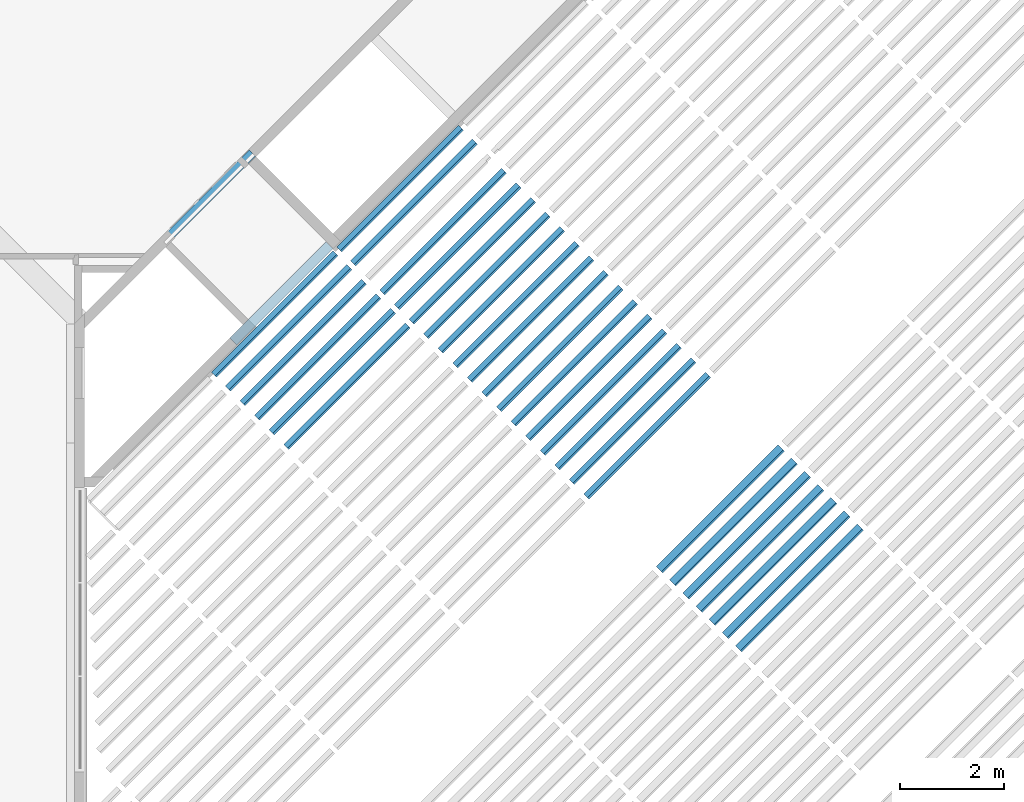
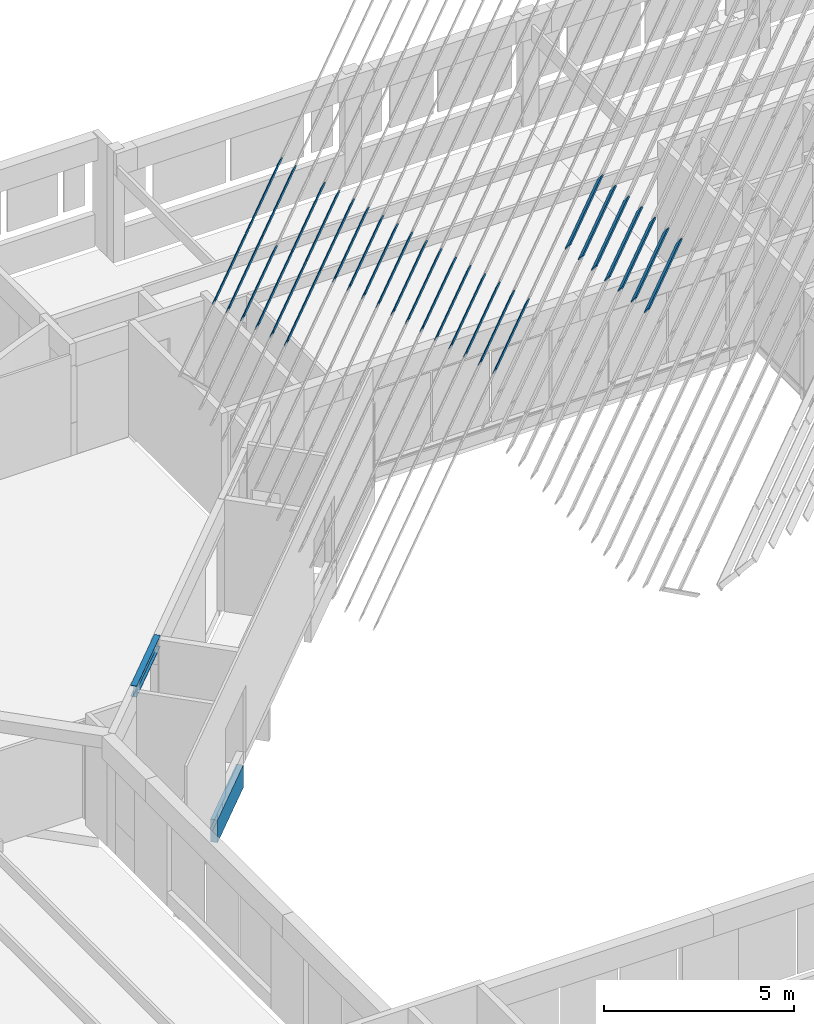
# One storey, part 7 of 37: 32 beams, 1 element without a shape of its own.
"""IFC4X3_ADD2 building model written with IfcOpenShell, lengths in millimetres."""

from ifc_helpers import new_model, si_unit, direction, frame, frame_2d, origin_with_axes, origin_2d_with_axis, place, context, subcontext, project, spatial, polyline, rectangle, outline, extrude, source, transform, mapped, material, type_object, type_shapes, element, aggregate, save


model = new_model("IFC4X3_ADD2")

# Units and contexts
model_context = context("Model", 3, precision=1e-05, world=origin_with_axes(), true_north=direction((0.0, 1.0)))
body_context = subcontext(model_context, "Body", "Model", "MODEL_VIEW")
ifc_project = project(units=[si_unit("LENGTHUNIT", "METRE", prefix="MILLI"), si_unit("AREAUNIT", "SQUARE_METRE"), si_unit("VOLUMEUNIT", "CUBIC_METRE"), si_unit("PLANEANGLEUNIT", "RADIAN"), si_unit("TIMEUNIT", "SECOND"), si_unit("MASSUNIT", "GRAM")], contexts=[model_context])

# Site, building, storey
site_placement = place(None, origin_with_axes())
site = spatial("IfcSite", under=ifc_project, at=site_placement, Name="Site", CompositionType="ELEMENT")
building_placement = place(site_placement, origin_with_axes())
building = spatial("IfcBuilding", under=site, at=building_placement, Name="IFC Building Story")
storey_placement = place(building_placement, frame((0.0, 0.0, 3600.0), z_axis=(0.0, 0.0, 1.0), x_axis=(1.0, 0.0, 0.0)))
storey = spatial("IfcBuildingStorey", under=building, at=storey_placement, Name="010", Elevation=3600.0)

# Assembly, beam
assembly_placement = place(storey_placement, frame((0.0, 0.0, -3600.0), z_axis=(0.0, 0.0, 1.0), x_axis=(1.0, 0.0, 0.0)))
assembly = element("IfcElementAssembly", 1, at=assembly_placement, inside=storey, Name="Structural Connections Assembly:IPE360 + plaat", ObjectType="Structural Connections Assembly:IPE360 + plaat", AssemblyPlace="NOTDEFINED", PredefinedType="USERDEFINED")
ifc_material_1 = material(Name="Metal - Steel - 345 MPa")
beam_type_1 = type_object("IfcBeamType", Name="IPE-Beams_IPE360", PredefinedType="NOTDEFINED")
shared_shape_1 = source(origin_with_axes(), body_context, "Body", "SweptSolid", [
    extrude(outline(polyline([(179.9999999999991, 85.0), (179.9999999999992, -84.9999999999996), (167.3000000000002, -84.9999999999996), (167.3000000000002, -4.0), (-167.2999999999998, -4.0), (-167.2999999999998, -85.0), (-179.9999999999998, -85.0), (-179.9999999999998, 85.0), (-167.2999999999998, 85.0), (-167.2999999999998, 3.999999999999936), (167.3000000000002, 3.999999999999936), (167.3000000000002, 85.0), (179.9999999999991, 85.0)])), frame((-925.267324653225, 0.0, 0.0), z_axis=(1.0, 0.0, 0.0), x_axis=(0.0, 0.0, 1.0)), (0.0, 0.0, 1.0), 2419.99999999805),
])
type_shapes(beam_type_1, [shared_shape_1])
beam_1_placement = place(assembly_placement, frame((-36018.9610306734, 30135.4545570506, 6830.0), z_axis=(0.0, 0.0, 1.0), x_axis=(-0.7071067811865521, -0.707106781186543, 0.0)))
beam_1 = element("IfcBeam", 2, at=beam_1_placement, type_object=beam_type_1, material=ifc_material_1, Name="IPE-Beams:IPE360", ObjectType="IPE360", PredefinedType="BEAM", context=body_context, shape_type="MappedRepresentation", body=[
    mapped(shared_shape_1, transform((0.0, 0.0, 0.0))),
])
aggregate(assembly, [beam_1])

# Beams
ifc_material_2 = material(Name="GVH_i2_naaldhout_generiek")
beam_type_2 = type_object("IfcBeamType", Name="28_SF_hout_rechthoekig_40 x 230_89", PredefinedType="NOTDEFINED")
shared_shape_2 = source(origin_with_axes(), body_context, "Body", "SweptSolid", [
    extrude(rectangle(XDim=3317.26999997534, YDim=40.0000000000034, at=origin_2d_with_axis()), frame((0.8922875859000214, 0.0, -115.0), z_axis=(0.0, 0.0, 1.0), x_axis=(1.0, 0.0, 0.0)), (0.0, 0.0, 1.0), 230.0000000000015),
])
type_shapes(beam_type_2, [shared_shape_2])
beam_2_placement = place(storey_placement, frame((-33542.8838122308, 26295.00391064, 15994.197142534), z_axis=(0.311937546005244, -0.311937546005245, 0.8974351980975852), x_axis=(-0.7071067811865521, -0.707106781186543, 0.0)))
element("IfcBeam", 3, at=beam_2_placement, inside=storey, type_object=beam_type_2, material=ifc_material_2, Name="28_SF_hout_rechthoekig:40 x 230", ObjectType="40 x 230", PredefinedType="BEAM", context=body_context, shape_type="MappedRepresentation", body=[
    mapped(shared_shape_2, transform((0.0, 0.0, 0.0))),
])
beam_type_3 = type_object("IfcBeamType", Name="28_SF_hout_rechthoekig_40 x 230_91", PredefinedType="NOTDEFINED")
shared_shape_3 = source(origin_with_axes(), body_context, "Body", "SweptSolid", [
    extrude(rectangle(XDim=3317.26999997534, YDim=40.0000000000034, at=origin_2d_with_axis()), frame((0.892201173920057, 0.0, -115.0), z_axis=(0.0, 0.0, 1.0), x_axis=(1.0, 0.0, 0.0)), (0.0, 0.0, 1.0), 230.0000000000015),
])
type_shapes(beam_type_3, [shared_shape_3])
beam_3_placement = place(storey_placement, frame((-33823.876949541, 26575.9970479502, 16189.5367277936), z_axis=(0.311937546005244, -0.311937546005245, 0.8974351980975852), x_axis=(-0.7071067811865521, -0.707106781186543, 0.0)))
element("IfcBeam", 4, at=beam_3_placement, inside=storey, type_object=beam_type_3, material=ifc_material_2, Name="28_SF_hout_rechthoekig:40 x 230", ObjectType="40 x 230", PredefinedType="BEAM", context=body_context, shape_type="MappedRepresentation", body=[
    mapped(shared_shape_3, transform((0.0, 0.0, 0.0))),
])
beam_type_4 = type_object("IfcBeamType", Name="28_SF_hout_rechthoekig_40 x 230_93", PredefinedType="NOTDEFINED")
shared_shape_4 = source(origin_with_axes(), body_context, "Body", "SweptSolid", [
    extrude(rectangle(XDim=3317.26999997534, YDim=40.0000000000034, at=origin_2d_with_axis()), frame((0.8921147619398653, 0.0, -115.0), z_axis=(0.0, 0.0, 1.0), x_axis=(1.0, 0.0, 0.0)), (0.0, 0.0, 1.0), 230.0000000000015),
])
type_shapes(beam_type_4, [shared_shape_4])
beam_4_placement = place(storey_placement, frame((-34104.8700868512, 26856.9901852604, 16384.8763130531), z_axis=(0.311937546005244, -0.311937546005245, 0.8974351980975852), x_axis=(-0.7071067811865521, -0.707106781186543, 0.0)))
element("IfcBeam", 5, at=beam_4_placement, inside=storey, type_object=beam_type_4, material=ifc_material_2, Name="28_SF_hout_rechthoekig:40 x 230", ObjectType="40 x 230", PredefinedType="BEAM", context=body_context, shape_type="MappedRepresentation", body=[
    mapped(shared_shape_4, transform((0.0, 0.0, 0.0))),
])
beam_type_5 = type_object("IfcBeamType", Name="28_SF_hout_rechthoekig_40 x 230_95", PredefinedType="NOTDEFINED")
shared_shape_5 = source(origin_with_axes(), body_context, "Body", "SweptSolid", [
    extrude(rectangle(XDim=3317.26999997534, YDim=40.0000000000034, at=origin_2d_with_axis()), frame((0.8920283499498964, 0.0, -115.0), z_axis=(0.0, 0.0, 1.0), x_axis=(1.0, 0.0, 0.0)), (0.0, 0.0, 1.0), 230.0000000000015),
])
type_shapes(beam_type_5, [shared_shape_5])
beam_5_placement = place(storey_placement, frame((-34385.8632241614, 27137.9833225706, 16580.2158983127), z_axis=(0.311937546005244, -0.311937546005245, 0.8974351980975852), x_axis=(-0.7071067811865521, -0.707106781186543, 0.0)))
element("IfcBeam", 6, at=beam_5_placement, inside=storey, type_object=beam_type_5, material=ifc_material_2, Name="28_SF_hout_rechthoekig:40 x 230", ObjectType="40 x 230", PredefinedType="BEAM", context=body_context, shape_type="MappedRepresentation", body=[
    mapped(shared_shape_5, transform((0.0, 0.0, 0.0))),
])
beam_type_6 = type_object("IfcBeamType", Name="28_SF_hout_rechthoekig_40 x 230_97", PredefinedType="NOTDEFINED")
shared_shape_6 = source(origin_with_axes(), body_context, "Body", "SweptSolid", [
    extrude(rectangle(XDim=3317.77038686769, YDim=40.0000000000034, at=origin_2d_with_axis()), frame((0.892411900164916, 0.0, -115.0), z_axis=(0.0, 0.0, 1.0), x_axis=(1.0, 0.0, 0.0)), (0.0, 0.0, 1.0), 230.0),
])
type_shapes(beam_type_6, [shared_shape_6])
beam_6_placement = place(storey_placement, frame((-34666.8563614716, 27418.9764598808, 16775.5554835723), z_axis=(0.311937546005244, -0.311937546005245, 0.8974351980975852), x_axis=(-0.7071067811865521, -0.707106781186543, 0.0)))
element("IfcBeam", 7, at=beam_6_placement, inside=storey, type_object=beam_type_6, material=ifc_material_2, Name="28_SF_hout_rechthoekig:40 x 230", ObjectType="40 x 230", PredefinedType="BEAM", context=body_context, shape_type="MappedRepresentation", body=[
    mapped(shared_shape_6, transform((0.0, 0.0, 0.0))),
])
beam_type_7 = type_object("IfcBeamType", Name="28_SF_hout_rechthoekig_40 x 230_99", PredefinedType="NOTDEFINED")
shared_shape_7 = source(origin_with_axes(), body_context, "Body", "SweptSolid", [
    extrude(rectangle(XDim=3317.28000000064, YDim=40.0000000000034, at=origin_2d_with_axis()), frame((0.8983245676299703, 0.0, -115.0), z_axis=(0.0, 0.0, 1.0), x_axis=(1.0, 0.0, 0.0)), (0.0, 0.0, 1.0), 230.0),
])
type_shapes(beam_type_7, [shared_shape_7])
beam_7_placement = place(storey_placement, frame((-27754.584303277, 25339.4681241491, 13650.1221194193), z_axis=(0.311937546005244, -0.311937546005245, 0.8974351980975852), x_axis=(-0.7071067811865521, -0.707106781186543, 0.0)))
element("IfcBeam", 8, at=beam_7_placement, inside=storey, type_object=beam_type_7, material=ifc_material_2, Name="28_SF_hout_rechthoekig:40 x 230", ObjectType="40 x 230", PredefinedType="BEAM", context=body_context, shape_type="MappedRepresentation", body=[
    mapped(shared_shape_7, transform((0.0, 0.0, 0.0))),
])
beam_type_8 = type_object("IfcBeamType", Name="28_SF_hout_rechthoekig_40 x 230_101", PredefinedType="NOTDEFINED")
shared_shape_8 = source(origin_with_axes(), body_context, "Body", "SweptSolid", [
    extrude(rectangle(XDim=3317.28000000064, YDim=40.0000000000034, at=origin_2d_with_axis()), frame((0.8982381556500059, 0.0, -115.0), z_axis=(0.0, 0.0, 1.0), x_axis=(1.0, 0.0, 0.0)), (0.0, 0.0, 1.0), 230.0),
])
type_shapes(beam_type_8, [shared_shape_8])
beam_8_placement = place(storey_placement, frame((-28035.5774405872, 25620.4612614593, 13845.4617046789), z_axis=(0.311937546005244, -0.311937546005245, 0.8974351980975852), x_axis=(-0.7071067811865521, -0.707106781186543, 0.0)))
element("IfcBeam", 9, at=beam_8_placement, inside=storey, type_object=beam_type_8, material=ifc_material_2, Name="28_SF_hout_rechthoekig:40 x 230", ObjectType="40 x 230", PredefinedType="BEAM", context=body_context, shape_type="MappedRepresentation", body=[
    mapped(shared_shape_8, transform((0.0, 0.0, 0.0))),
])
beam_type_9 = type_object("IfcBeamType", Name="28_SF_hout_rechthoekig_40 x 230_103", PredefinedType="NOTDEFINED")
shared_shape_9 = source(origin_with_axes(), body_context, "Body", "SweptSolid", [
    extrude(rectangle(XDim=3317.28000000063, YDim=40.0000000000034, at=origin_2d_with_axis()), frame((0.8981517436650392, 0.0, -115.0), z_axis=(0.0, 0.0, 1.0), x_axis=(1.0, 0.0, 0.0)), (0.0, 0.0, 1.0), 230.0),
])
type_shapes(beam_type_9, [shared_shape_9])
beam_9_placement = place(storey_placement, frame((-28316.5705778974, 25901.4543987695, 14040.8012899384), z_axis=(0.311937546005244, -0.311937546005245, 0.8974351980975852), x_axis=(-0.7071067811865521, -0.707106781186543, 0.0)))
element("IfcBeam", 10, at=beam_9_placement, inside=storey, type_object=beam_type_9, material=ifc_material_2, Name="28_SF_hout_rechthoekig:40 x 230", ObjectType="40 x 230", PredefinedType="BEAM", context=body_context, shape_type="MappedRepresentation", body=[
    mapped(shared_shape_9, transform((0.0, 0.0, 0.0))),
])
beam_type_10 = type_object("IfcBeamType", Name="28_SF_hout_rechthoekig_40 x 230_105", PredefinedType="NOTDEFINED")
shared_shape_10 = source(origin_with_axes(), body_context, "Body", "SweptSolid", [
    extrude(rectangle(XDim=3317.28000000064, YDim=40.0000000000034, at=origin_2d_with_axis()), frame((0.8980653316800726, 0.0, -115.0), z_axis=(0.0, 0.0, 1.0), x_axis=(1.0, 0.0, 0.0)), (0.0, 0.0, 1.0), 230.0),
])
type_shapes(beam_type_10, [shared_shape_10])
beam_10_placement = place(storey_placement, frame((-28597.5637152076, 26182.4475360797, 14236.140875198), z_axis=(0.311937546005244, -0.311937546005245, 0.8974351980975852), x_axis=(-0.7071067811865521, -0.707106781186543, 0.0)))
element("IfcBeam", 11, at=beam_10_placement, inside=storey, type_object=beam_type_10, material=ifc_material_2, Name="28_SF_hout_rechthoekig:40 x 230", ObjectType="40 x 230", PredefinedType="BEAM", context=body_context, shape_type="MappedRepresentation", body=[
    mapped(shared_shape_10, transform((0.0, 0.0, 0.0))),
])
beam_type_11 = type_object("IfcBeamType", Name="28_SF_hout_rechthoekig_40 x 230_107", PredefinedType="NOTDEFINED")
shared_shape_11 = source(origin_with_axes(), body_context, "Body", "SweptSolid", [
    extrude(rectangle(XDim=3317.28000000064, YDim=40.0000000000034, at=origin_2d_with_axis()), frame((0.8979789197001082, 0.0, -115.0), z_axis=(0.0, 0.0, 1.0), x_axis=(1.0, 0.0, 0.0)), (0.0, 0.0, 1.0), 230.0),
])
type_shapes(beam_type_11, [shared_shape_11])
beam_11_placement = place(storey_placement, frame((-28878.5568525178, 26463.4406733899, 14431.4804604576), z_axis=(0.311937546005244, -0.311937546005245, 0.8974351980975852), x_axis=(-0.7071067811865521, -0.707106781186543, 0.0)))
element("IfcBeam", 12, at=beam_11_placement, inside=storey, type_object=beam_type_11, material=ifc_material_2, Name="28_SF_hout_rechthoekig:40 x 230", ObjectType="40 x 230", PredefinedType="BEAM", context=body_context, shape_type="MappedRepresentation", body=[
    mapped(shared_shape_11, transform((0.0, 0.0, 0.0))),
])
beam_type_12 = type_object("IfcBeamType", Name="28_SF_hout_rechthoekig_40 x 230_109", PredefinedType="NOTDEFINED")
shared_shape_12 = source(origin_with_axes(), body_context, "Body", "SweptSolid", [
    extrude(rectangle(XDim=3317.27991358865, YDim=40.0000000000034, at=origin_2d_with_axis()), frame((0.8978493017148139, 0.0, -115.0), z_axis=(0.0, 0.0, 1.0), x_axis=(1.0, 0.0, 0.0)), (0.0, 0.0, 1.0), 230.0),
])
type_shapes(beam_type_12, [shared_shape_12])
beam_12_placement = place(storey_placement, frame((-29159.549989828, 26744.4338107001, 14626.8200457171), z_axis=(0.311937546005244, -0.311937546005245, 0.8974351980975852), x_axis=(-0.7071067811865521, -0.707106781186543, 0.0)))
element("IfcBeam", 13, at=beam_12_placement, inside=storey, type_object=beam_type_12, material=ifc_material_2, Name="28_SF_hout_rechthoekig:40 x 230", ObjectType="40 x 230", PredefinedType="BEAM", context=body_context, shape_type="MappedRepresentation", body=[
    mapped(shared_shape_12, transform((0.0, 0.0, 0.0))),
])
beam_type_13 = type_object("IfcBeamType", Name="28_SF_hout_rechthoekig_40 x 230_111", PredefinedType="NOTDEFINED")
shared_shape_13 = source(origin_with_axes(), body_context, "Body", "SweptSolid", [
    extrude(rectangle(XDim=3317.28000000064, YDim=40.0000000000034, at=origin_2d_with_axis()), frame((0.8978060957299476, 0.0, -115.0), z_axis=(0.0, 0.0, 1.0), x_axis=(1.0, 0.0, 0.0)), (0.0, 0.0, 1.0), 230.0),
])
type_shapes(beam_type_13, [shared_shape_13])
beam_13_placement = place(storey_placement, frame((-29440.5431271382, 27025.4269480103, 14822.1596309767), z_axis=(0.311937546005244, -0.311937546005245, 0.8974351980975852), x_axis=(-0.7071067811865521, -0.707106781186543, 0.0)))
element("IfcBeam", 14, at=beam_13_placement, inside=storey, type_object=beam_type_13, material=ifc_material_2, Name="28_SF_hout_rechthoekig:40 x 230", ObjectType="40 x 230", PredefinedType="BEAM", context=body_context, shape_type="MappedRepresentation", body=[
    mapped(shared_shape_13, transform((0.0, 0.0, 0.0))),
])
beam_type_14 = type_object("IfcBeamType", Name="28_SF_hout_rechthoekig_40 x 230_113", PredefinedType="NOTDEFINED")
shared_shape_14 = source(origin_with_axes(), body_context, "Body", "SweptSolid", [
    extrude(rectangle(XDim=3317.28000000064, YDim=40.0000000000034, at=origin_2d_with_axis()), frame((0.8977196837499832, 0.0, -115.0), z_axis=(0.0, 0.0, 1.0), x_axis=(1.0, 0.0, 0.0)), (0.0, 0.0, 1.0), 230.0),
])
type_shapes(beam_type_14, [shared_shape_14])
beam_14_placement = place(storey_placement, frame((-29721.5362644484, 27306.4200853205, 15017.4992162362), z_axis=(0.311937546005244, -0.311937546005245, 0.8974351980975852), x_axis=(-0.7071067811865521, -0.707106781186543, 0.0)))
element("IfcBeam", 15, at=beam_14_placement, inside=storey, type_object=beam_type_14, material=ifc_material_2, Name="28_SF_hout_rechthoekig:40 x 230", ObjectType="40 x 230", PredefinedType="BEAM", context=body_context, shape_type="MappedRepresentation", body=[
    mapped(shared_shape_14, transform((0.0, 0.0, 0.0))),
])
beam_type_15 = type_object("IfcBeamType", Name="28_SF_hout_rechthoekig_40 x 230_115", PredefinedType="NOTDEFINED")
shared_shape_15 = source(origin_with_axes(), body_context, "Body", "SweptSolid", [
    extrude(rectangle(XDim=3317.28000000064, YDim=40.0000000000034, at=origin_2d_with_axis()), frame((0.8976332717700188, 0.0, -115.0), z_axis=(0.0, 0.0, 1.0), x_axis=(1.0, 0.0, 0.0)), (0.0, 0.0, 1.0), 230.0),
])
type_shapes(beam_type_15, [shared_shape_15])
beam_15_placement = place(storey_placement, frame((-30002.5294017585, 27587.4132226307, 15212.8388014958), z_axis=(0.311937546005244, -0.311937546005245, 0.8974351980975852), x_axis=(-0.7071067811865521, -0.707106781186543, 0.0)))
element("IfcBeam", 16, at=beam_15_placement, inside=storey, type_object=beam_type_15, material=ifc_material_2, Name="28_SF_hout_rechthoekig:40 x 230", ObjectType="40 x 230", PredefinedType="BEAM", context=body_context, shape_type="MappedRepresentation", body=[
    mapped(shared_shape_15, transform((0.0, 0.0, 0.0))),
])
beam_type_16 = type_object("IfcBeamType", Name="28_SF_hout_rechthoekig_40 x 230_117", PredefinedType="NOTDEFINED")
shared_shape_16 = source(origin_with_axes(), body_context, "Body", "SweptSolid", [
    extrude(rectangle(XDim=3317.28000000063, YDim=40.0000000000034, at=origin_2d_with_axis()), frame((0.8975468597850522, 0.0, -115.0), z_axis=(0.0, 0.0, 1.0), x_axis=(1.0, 0.0, 0.0)), (0.0, 0.0, 1.0), 230.0),
])
type_shapes(beam_type_16, [shared_shape_16])
beam_16_placement = place(storey_placement, frame((-30283.5225390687, 27868.4063599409, 15408.1783867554), z_axis=(0.311937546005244, -0.311937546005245, 0.8974351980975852), x_axis=(-0.7071067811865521, -0.707106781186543, 0.0)))
element("IfcBeam", 17, at=beam_16_placement, inside=storey, type_object=beam_type_16, material=ifc_material_2, Name="28_SF_hout_rechthoekig:40 x 230", ObjectType="40 x 230", PredefinedType="BEAM", context=body_context, shape_type="MappedRepresentation", body=[
    mapped(shared_shape_16, transform((0.0, 0.0, 0.0))),
])
beam_type_17 = type_object("IfcBeamType", Name="28_SF_hout_rechthoekig_40 x 230_119", PredefinedType="NOTDEFINED")
shared_shape_17 = source(origin_with_axes(), body_context, "Body", "SweptSolid", [
    extrude(rectangle(XDim=3317.28000000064, YDim=40.0000000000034, at=origin_2d_with_axis()), frame((0.89746044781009, 0.0, -115.0), z_axis=(0.0, 0.0, 1.0), x_axis=(1.0, 0.0, 0.0)), (0.0, 0.0, 1.0), 230.0),
])
type_shapes(beam_type_17, [shared_shape_17])
beam_17_placement = place(storey_placement, frame((-30564.5156763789, 28149.3994972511, 15603.5179720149), z_axis=(0.311937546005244, -0.311937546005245, 0.8974351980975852), x_axis=(-0.7071067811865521, -0.707106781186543, 0.0)))
element("IfcBeam", 18, at=beam_17_placement, inside=storey, type_object=beam_type_17, material=ifc_material_2, Name="28_SF_hout_rechthoekig:40 x 230", ObjectType="40 x 230", PredefinedType="BEAM", context=body_context, shape_type="MappedRepresentation", body=[
    mapped(shared_shape_17, transform((0.0, 0.0, 0.0))),
])
beam_type_18 = type_object("IfcBeamType", Name="28_SF_hout_rechthoekig_40 x 230_121", PredefinedType="NOTDEFINED")
shared_shape_18 = source(origin_with_axes(), body_context, "Body", "SweptSolid", [
    extrude(rectangle(XDim=3317.28000000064, YDim=40.0000000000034, at=origin_2d_with_axis()), frame((0.8973740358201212, 0.0, -115.0), z_axis=(0.0, 0.0, 1.0), x_axis=(1.0, 0.0, 0.0)), (0.0, 0.0, 1.0), 230.0),
])
type_shapes(beam_type_18, [shared_shape_18])
beam_18_placement = place(storey_placement, frame((-30845.5088136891, 28430.3926345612, 15798.8575572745), z_axis=(0.311937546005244, -0.311937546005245, 0.8974351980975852), x_axis=(-0.7071067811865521, -0.707106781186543, 0.0)))
element("IfcBeam", 19, at=beam_18_placement, inside=storey, type_object=beam_type_18, material=ifc_material_2, Name="28_SF_hout_rechthoekig:40 x 230", ObjectType="40 x 230", PredefinedType="BEAM", context=body_context, shape_type="MappedRepresentation", body=[
    mapped(shared_shape_18, transform((0.0, 0.0, 0.0))),
])
beam_type_19 = type_object("IfcBeamType", Name="28_SF_hout_rechthoekig_40 x 230_123", PredefinedType="NOTDEFINED")
shared_shape_19 = source(origin_with_axes(), body_context, "Body", "SweptSolid", [
    extrude(rectangle(XDim=3317.28000000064, YDim=40.0000000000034, at=origin_2d_with_axis()), frame((0.8972876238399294, 0.0, -115.0), z_axis=(0.0, 0.0, 1.0), x_axis=(1.0, 0.0, 0.0)), (0.0, 0.0, 1.0), 230.0),
])
type_shapes(beam_type_19, [shared_shape_19])
beam_19_placement = place(storey_placement, frame((-31126.5019509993, 28711.3857718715, 15994.197142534), z_axis=(0.311937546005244, -0.311937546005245, 0.8974351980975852), x_axis=(-0.7071067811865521, -0.707106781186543, 0.0)))
element("IfcBeam", 20, at=beam_19_placement, inside=storey, type_object=beam_type_19, material=ifc_material_2, Name="28_SF_hout_rechthoekig:40 x 230", ObjectType="40 x 230", PredefinedType="BEAM", context=body_context, shape_type="MappedRepresentation", body=[
    mapped(shared_shape_19, transform((0.0, 0.0, 0.0))),
])
beam_type_20 = type_object("IfcBeamType", Name="28_SF_hout_rechthoekig_40 x 230_125", PredefinedType="NOTDEFINED")
shared_shape_20 = source(origin_with_axes(), body_context, "Body", "SweptSolid", [
    extrude(rectangle(XDim=3317.28000000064, YDim=40.0000000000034, at=origin_2d_with_axis()), frame((0.8972012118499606, 0.0, -115.0), z_axis=(0.0, 0.0, 1.0), x_axis=(1.0, 0.0, 0.0)), (0.0, 0.0, 1.0), 230.0),
])
type_shapes(beam_type_20, [shared_shape_20])
beam_20_placement = place(storey_placement, frame((-31407.4950883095, 28992.3789091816, 16189.5367277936), z_axis=(0.311937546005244, -0.311937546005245, 0.8974351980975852), x_axis=(-0.7071067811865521, -0.707106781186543, 0.0)))
element("IfcBeam", 21, at=beam_20_placement, inside=storey, type_object=beam_type_20, material=ifc_material_2, Name="28_SF_hout_rechthoekig:40 x 230", ObjectType="40 x 230", PredefinedType="BEAM", context=body_context, shape_type="MappedRepresentation", body=[
    mapped(shared_shape_20, transform((0.0, 0.0, 0.0))),
])
beam_type_21 = type_object("IfcBeamType", Name="28_SF_hout_rechthoekig_40 x 230_127", PredefinedType="NOTDEFINED")
shared_shape_21 = source(origin_with_axes(), body_context, "Body", "SweptSolid", [
    extrude(rectangle(XDim=3317.28000000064, YDim=40.0000000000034, at=origin_2d_with_axis()), frame((0.8971147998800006, 0.0, -115.0), z_axis=(0.0, 0.0, 1.0), x_axis=(1.0, 0.0, 0.0)), (0.0, 0.0, 1.0), 230.0),
])
type_shapes(beam_type_21, [shared_shape_21])
beam_21_placement = place(storey_placement, frame((-31688.4882256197, 29273.3720464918, 16384.8763130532), z_axis=(0.311937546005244, -0.311937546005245, 0.8974351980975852), x_axis=(-0.7071067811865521, -0.707106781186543, 0.0)))
element("IfcBeam", 22, at=beam_21_placement, inside=storey, type_object=beam_type_21, material=ifc_material_2, Name="28_SF_hout_rechthoekig:40 x 230", ObjectType="40 x 230", PredefinedType="BEAM", context=body_context, shape_type="MappedRepresentation", body=[
    mapped(shared_shape_21, transform((0.0, 0.0, 0.0))),
])
beam_type_22 = type_object("IfcBeamType", Name="28_SF_hout_rechthoekig_40 x 230_131", PredefinedType="NOTDEFINED")
shared_shape_22 = source(origin_with_axes(), body_context, "Body", "SweptSolid", [
    extrude(rectangle(XDim=3317.28000000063, YDim=40.0000000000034, at=origin_2d_with_axis()), frame((0.8969419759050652, 0.0, -115.0), z_axis=(0.0, 0.0, 1.0), x_axis=(1.0, 0.0, 0.0)), (0.0, 0.0, 1.0), 230.0),
])
type_shapes(beam_type_22, [shared_shape_22])
beam_22_placement = place(storey_placement, frame((-32250.4745002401, 29835.3583211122, 16775.5554835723), z_axis=(0.311937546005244, -0.311937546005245, 0.8974351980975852), x_axis=(-0.7071067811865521, -0.707106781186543, 0.0)))
element("IfcBeam", 23, at=beam_22_placement, inside=storey, type_object=beam_type_22, material=ifc_material_2, Name="28_SF_hout_rechthoekig:40 x 230", ObjectType="40 x 230", PredefinedType="BEAM", context=body_context, shape_type="MappedRepresentation", body=[
    mapped(shared_shape_22, transform((0.0, 0.0, 0.0))),
])
beam_type_23 = type_object("IfcBeamType", Name="28_SF_hout_rechthoekig_40 x 230_233", PredefinedType="NOTDEFINED")
shared_shape_23 = source(origin_with_axes(), body_context, "Body", "SweptSolid", [
    extrude(rectangle(XDim=3317.28000000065, YDim=40.0000000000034, at=origin_2d_with_axis()), frame((0.8968600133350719, 0.0, -115.0), z_axis=(0.0, 0.0, 1.0), x_axis=(1.0, 0.0, 0.0)), (0.0, 0.0, 1.0), 230.0),
])
type_shapes(beam_type_23, [shared_shape_23])
beam_23_placement = place(storey_placement, frame((-32516.9991562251, 30101.8829770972, 16960.8369330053), z_axis=(0.311937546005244, -0.311937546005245, 0.8974351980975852), x_axis=(-0.7071067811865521, -0.707106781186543, 0.0)))
element("IfcBeam", 24, at=beam_23_placement, inside=storey, type_object=beam_type_23, material=ifc_material_2, Name="28_SF_hout_rechthoekig:40 x 230", ObjectType="40 x 230", PredefinedType="BEAM", context=body_context, shape_type="MappedRepresentation", body=[
    mapped(shared_shape_23, transform((0.0, 0.0, 0.0))),
])
beam_type_24 = type_object("IfcBeamType", Name="28_SF_hout_rechthoekig_40 x 230_237", PredefinedType="NOTDEFINED")
shared_shape_24 = source(origin_with_axes(), body_context, "Body", "SweptSolid", [
    extrude(rectangle(XDim=3317.26999997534, YDim=40.0000000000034, at=origin_2d_with_axis()), frame((0.8918599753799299, 0.0, -115.0), z_axis=(0.0, 0.0, 1.0), x_axis=(1.0, 0.0, 0.0)), (0.0, 0.0, 1.0), 229.9999999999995),
])
type_shapes(beam_type_24, [shared_shape_24])
beam_24_placement = place(storey_placement, frame((-34933.3810174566, 27685.5011158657, 16960.8369330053), z_axis=(0.311937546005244, -0.311937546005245, 0.8974351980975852), x_axis=(-0.7071067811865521, -0.707106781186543, 0.0)))
element("IfcBeam", 25, at=beam_24_placement, inside=storey, type_object=beam_type_24, material=ifc_material_2, Name="28_SF_hout_rechthoekig:40 x 230", ObjectType="40 x 230", PredefinedType="BEAM", context=body_context, shape_type="MappedRepresentation", body=[
    mapped(shared_shape_24, transform((0.0, 0.0, 0.0))),
])
beam_type_25 = type_object("IfcBeamType", Name="28_SF_hout_rechthoekig_40 x 230_387", PredefinedType="NOTDEFINED")
shared_shape_25 = source(origin_with_axes(), body_context, "Body", "SweptSolid", [
    extrude(rectangle(XDim=3317.28000002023, YDim=40.0000000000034, at=origin_2d_with_axis()), frame((-36.48289801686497, 0.0, -115.0), z_axis=(0.0, 0.0, 1.0), x_axis=(1.0, 0.0, 0.0)), (0.0, 0.0, 1.0), 230.0),
])
type_shapes(beam_type_25, [shared_shape_25])
beam_25_placement = place(storey_placement, frame((-24847.7281084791, 22379.7561868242, 16349.008018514), z_axis=(0.4307932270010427, -0.4307932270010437, 0.7929907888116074), x_axis=(-0.7071067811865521, -0.707106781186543, 0.0)))
element("IfcBeam", 26, at=beam_25_placement, inside=storey, type_object=beam_type_25, material=ifc_material_2, Name="28_SF_hout_rechthoekig:40 x 230", ObjectType="40 x 230", PredefinedType="BEAM", context=body_context, shape_type="MappedRepresentation", body=[
    mapped(shared_shape_25, transform((0.0, 0.0, 0.0))),
])
beam_type_26 = type_object("IfcBeamType", Name="28_SF_hout_rechthoekig_40 x 230_389", PredefinedType="NOTDEFINED")
shared_shape_26 = source(origin_with_axes(), body_context, "Body", "SweptSolid", [
    extrude(rectangle(XDim=3317.28000002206, YDim=40.0000000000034, at=origin_2d_with_axis()), frame((-36.48284694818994, 0.0, -115.0), z_axis=(0.0, 0.0, 1.0), x_axis=(1.0, 0.0, 0.0)), (0.0, 0.0, 1.0), 230.0),
])
type_shapes(beam_type_26, [shared_shape_26])
beam_26_placement = place(storey_placement, frame((-25101.7384198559, 22633.766498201, 16624.9908502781), z_axis=(0.4307932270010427, -0.4307932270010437, 0.7929907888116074), x_axis=(-0.7071067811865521, -0.707106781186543, 0.0)))
element("IfcBeam", 27, at=beam_26_placement, inside=storey, type_object=beam_type_26, material=ifc_material_2, Name="28_SF_hout_rechthoekig:40 x 230", ObjectType="40 x 230", PredefinedType="BEAM", context=body_context, shape_type="MappedRepresentation", body=[
    mapped(shared_shape_26, transform((0.0, 0.0, 0.0))),
])
beam_type_27 = type_object("IfcBeamType", Name="28_SF_hout_rechthoekig_40 x 230_391", PredefinedType="NOTDEFINED")
shared_shape_27 = source(origin_with_axes(), body_context, "Body", "SweptSolid", [
    extrude(rectangle(XDim=3317.28000002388, YDim=40.0000000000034, at=origin_2d_with_axis()), frame((-36.48279587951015, 0.0, -115.0), z_axis=(0.0, 0.0, 1.0), x_axis=(1.0, 0.0, 0.0)), (0.0, 0.0, 1.0), 230.0),
])
type_shapes(beam_type_27, [shared_shape_27])
beam_27_placement = place(storey_placement, frame((-25355.7487312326, 22887.7768095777, 16900.9736820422), z_axis=(0.4307932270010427, -0.4307932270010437, 0.7929907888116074), x_axis=(-0.7071067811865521, -0.707106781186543, 0.0)))
element("IfcBeam", 28, at=beam_27_placement, inside=storey, type_object=beam_type_27, material=ifc_material_2, Name="28_SF_hout_rechthoekig:40 x 230", ObjectType="40 x 230", PredefinedType="BEAM", context=body_context, shape_type="MappedRepresentation", body=[
    mapped(shared_shape_27, transform((0.0, 0.0, 0.0))),
])
beam_type_28 = type_object("IfcBeamType", Name="28_SF_hout_rechthoekig_40 x 230_393", PredefinedType="NOTDEFINED")
shared_shape_28 = source(origin_with_axes(), body_context, "Body", "SweptSolid", [
    extrude(rectangle(XDim=3317.28000002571, YDim=40.0000000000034, at=origin_2d_with_axis()), frame((-36.48274481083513, 0.0, -115.0), z_axis=(0.0, 0.0, 1.0), x_axis=(1.0, 0.0, 0.0)), (0.0, 0.0, 1.0), 230.0),
])
type_shapes(beam_type_28, [shared_shape_28])
beam_28_placement = place(storey_placement, frame((-25609.7590426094, 23141.7871209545, 17176.9565138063), z_axis=(0.4307932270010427, -0.4307932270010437, 0.7929907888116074), x_axis=(-0.7071067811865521, -0.707106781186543, 0.0)))
element("IfcBeam", 29, at=beam_28_placement, inside=storey, type_object=beam_type_28, material=ifc_material_2, Name="28_SF_hout_rechthoekig:40 x 230", ObjectType="40 x 230", PredefinedType="BEAM", context=body_context, shape_type="MappedRepresentation", body=[
    mapped(shared_shape_28, transform((0.0, 0.0, 0.0))),
])
beam_type_29 = type_object("IfcBeamType", Name="28_SF_hout_rechthoekig_40 x 230_395", PredefinedType="NOTDEFINED")
shared_shape_29 = source(origin_with_axes(), body_context, "Body", "SweptSolid", [
    extrude(rectangle(XDim=3317.28000002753, YDim=40.0000000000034, at=origin_2d_with_axis()), frame((-36.48269374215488, 0.0, -115.0), z_axis=(0.0, 0.0, 1.0), x_axis=(1.0, 0.0, 0.0)), (0.0, 0.0, 1.0), 230.0),
])
type_shapes(beam_type_29, [shared_shape_29])
beam_29_placement = place(storey_placement, frame((-25863.7693539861, 23395.7974323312, 17452.9393455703), z_axis=(0.4307932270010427, -0.4307932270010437, 0.7929907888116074), x_axis=(-0.7071067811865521, -0.707106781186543, 0.0)))
element("IfcBeam", 30, at=beam_29_placement, inside=storey, type_object=beam_type_29, material=ifc_material_2, Name="28_SF_hout_rechthoekig:40 x 230", ObjectType="40 x 230", PredefinedType="BEAM", context=body_context, shape_type="MappedRepresentation", body=[
    mapped(shared_shape_29, transform((0.0, 0.0, 0.0))),
])
beam_type_30 = type_object("IfcBeamType", Name="28_SF_hout_rechthoekig_40 x 230_397", PredefinedType="NOTDEFINED")
shared_shape_30 = source(origin_with_axes(), body_context, "Body", "SweptSolid", [
    extrude(rectangle(XDim=3317.28000002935, YDim=40.0000000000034, at=origin_2d_with_axis()), frame((-36.48264267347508, 0.0, -115.0), z_axis=(0.0, 0.0, 1.0), x_axis=(1.0, 0.0, 0.0)), (0.0, 0.0, 1.0), 230.0),
])
type_shapes(beam_type_30, [shared_shape_30])
beam_30_placement = place(storey_placement, frame((-26117.7796653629, 23649.807743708, 17728.9221773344), z_axis=(0.4307932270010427, -0.4307932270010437, 0.7929907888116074), x_axis=(-0.7071067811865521, -0.707106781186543, 0.0)))
element("IfcBeam", 31, at=beam_30_placement, inside=storey, type_object=beam_type_30, material=ifc_material_2, Name="28_SF_hout_rechthoekig:40 x 230", ObjectType="40 x 230", PredefinedType="BEAM", context=body_context, shape_type="MappedRepresentation", body=[
    mapped(shared_shape_30, transform((0.0, 0.0, 0.0))),
])
beam_type_31 = type_object("IfcBeamType", Name="28_SF_hout_rechthoekig_40 x 230_399", PredefinedType="NOTDEFINED")
shared_shape_31 = source(origin_with_axes(), body_context, "Body", "SweptSolid", [
    extrude(rectangle(XDim=3317.28000003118, YDim=40.0000000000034, at=origin_2d_with_axis()), frame((-36.48259160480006, 0.0, -115.0), z_axis=(0.0, 0.0, 1.0), x_axis=(1.0, 0.0, 0.0)), (0.0, 0.0, 1.0), 230.0),
])
type_shapes(beam_type_31, [shared_shape_31])
beam_31_placement = place(storey_placement, frame((-26371.7899767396, 23903.8180550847, 18004.9050090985), z_axis=(0.4307932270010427, -0.4307932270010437, 0.7929907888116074), x_axis=(-0.7071067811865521, -0.707106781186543, 0.0)))
element("IfcBeam", 32, at=beam_31_placement, inside=storey, type_object=beam_type_31, material=ifc_material_2, Name="28_SF_hout_rechthoekig:40 x 230", ObjectType="40 x 230", PredefinedType="BEAM", context=body_context, shape_type="MappedRepresentation", body=[
    mapped(shared_shape_31, transform((0.0, 0.0, 0.0))),
])
ifc_material_3 = material(Name="BB_Beton_Bestaand")
beam_type_32 = type_object("IfcBeamType", Name="BB_XX_Betonbalk_ rechthoekig_ center-center_SFB_190 x 730 mm1", PredefinedType="NOTDEFINED")
shared_shape_32 = source(origin_with_axes(), body_context, "Body", "SweptSolid", [
    extrude(rectangle(XDim=2619.995754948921, YDim=189.9999999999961, at=frame_2d((0.0, 0.0), x_axis=(0.7071067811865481, 0.7071067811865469))), frame((-34809.59908525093, 28085.01659787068, 2670.0), z_axis=(0.0, 0.0, 1.0), x_axis=(1.0, 0.0, 0.0)), (0.0, 0.0, 1.0), 729.9999999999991),
])
type_shapes(beam_type_32, [shared_shape_32])
beam_32_placement = place(storey_placement, frame((0.0, 0.0, -3600.0), z_axis=(0.0, 0.0, 1.0), x_axis=(1.0, 0.0, 0.0)))
element("IfcBeam", 33, at=beam_32_placement, inside=storey, type_object=beam_type_32, material=ifc_material_3, Name="BB_XX_Betonbalk, rechthoekig, center-center_SFB:190 x 730 mm", ObjectType="190 x 730 mm", PredefinedType="BEAM", context=body_context, shape_type="MappedRepresentation", body=[
    mapped(shared_shape_32, transform((0.0, 0.0, 0.0))),
])

save(model, "model.ifc")
